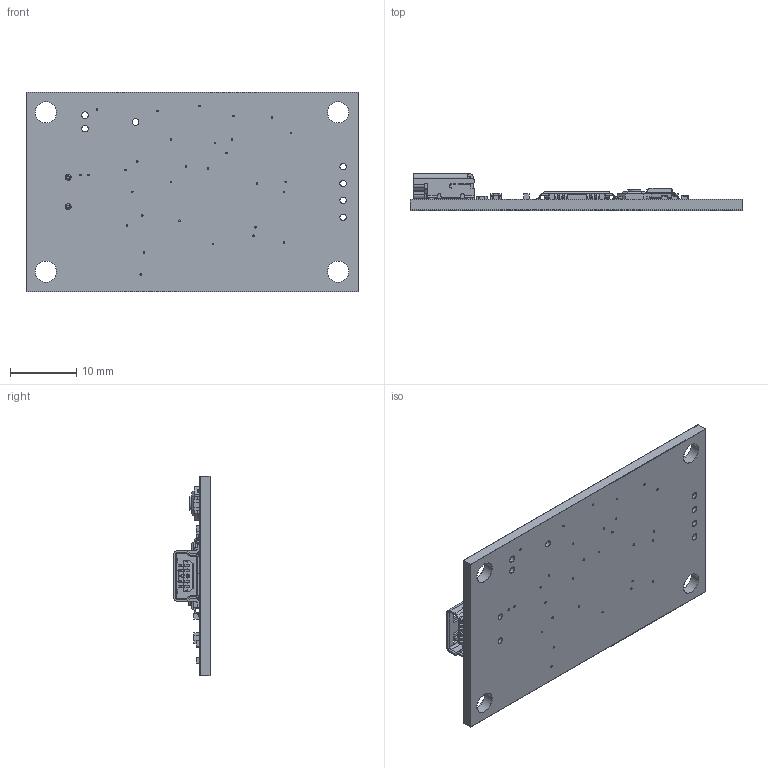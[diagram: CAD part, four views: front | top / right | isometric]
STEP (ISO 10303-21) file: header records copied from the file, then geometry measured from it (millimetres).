
FILE_DESCRIPTION(/* description */ (''),/* implementation_level */ '2;1');
FILE_NAME(/* name */ '/Users/shaischechter/Downloads/Feeder Motherboard Mini v9.step',/* time_stamp */ '2021-01-25T18:37:45-05:00',/* author */ (''),/* organization */ (''),/* preprocessor_version */ 'ST-DEVELOPER v18.1',/* originating_system */ 'Autodesk Translation Framework v9.7.0.1280',/* authorisation */ '');
FILE_SCHEMA (('AUTOMOTIVE_DESIGN { 1 0 10303 214 3 1 1 }'));
Products named in the file (13): Feeder Motherboard Mini; Board; 1-soldermask; 16-soldermask; Packages; C0805; SOIC127P600X175-8N; TQFP44-PAD; USB-MINIB; SWITCH_MOMENTARY; FC3BACAGI160; CAP_0603; RESISTOR_0603
Assembly tree (32 placements, depth 3):
  Feeder Motherboard Mini
    Board
    1-soldermask
    16-soldermask
    Packages
      C0805
      CAP_0603  x7
      RESISTOR_0603  x15
      SOIC127P600X175-8N
      TQFP44-PAD
      USB-MINIB
      SWITCH_MOMENTARY
      FC3BACAGI160
Bounding box: 50 x 5.54 x 30 mm (x, y, z)
Volume: 2664.5 mm3; surface area: 10639.1 mm2
Topology: 124 solids, 124 shells, 2842 faces, 6965 edges, 4362 vertices
Faces by surface type: plane 1578, cylinder 995, sphere 240, bspline 18, cone 10, torus 1
Full cylindrical faces by diameter (mm): 0.15 x1, 0.23 x90, 0.3 x60, 0.404 x1, 0.5 x2, 0.78 x2, 0.9 x6, 0.946 x12, 0.991 x9, 1.016 x8, 2 x1, 3.2 x12
Entity records: 63715 total; most frequent: CARTESIAN_POINT 11371, DIRECTION 10556, ORIENTED_EDGE 10474, EDGE_CURVE 5237, LINE 3834, VECTOR 3834, VERTEX_POINT 3434, AXIS2_PLACEMENT_3D 3361
